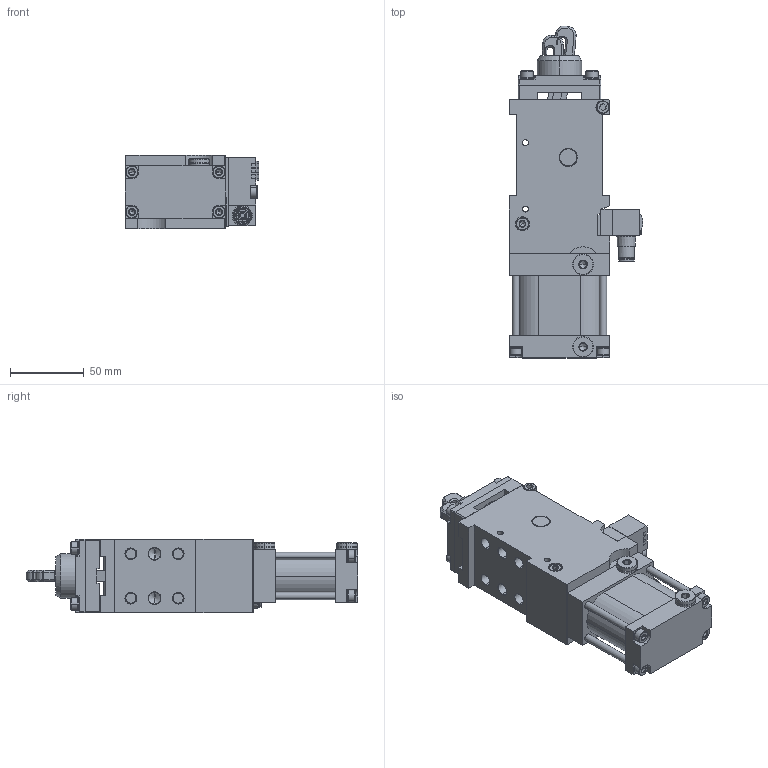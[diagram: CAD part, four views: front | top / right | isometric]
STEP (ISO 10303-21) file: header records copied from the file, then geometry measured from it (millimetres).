
FILE_DESCRIPTION (( 'STEP AP203' ), '1' );
FILE_NAME ('dca40gi-B200514xxx_01.STEP', '2020-05-26T07:52:25', ( '' ), ( '' ), 'SwSTEP 2.0', 'SolidWorks 2019', '' );
FILE_SCHEMA (( 'CONFIG_CONTROL_DESIGN' ));
Products named in the file (1): dca40gi-B200514xxx_01
Bounding box: 90.46 x 224.75 x 50.02 mm (x, y, z)
Volume: 397243.4 mm3; surface area: 143083.5 mm2
Topology: 37 solids, 37 shells, 2365 faces, 6046 edges, 3796 vertices
Faces by surface type: plane 1035, cylinder 740, cone 422, torus 166, bspline 2
Entity records: 72989 total; most frequent: CARTESIAN_POINT 15533, DIRECTION 12172, ORIENTED_EDGE 11976, EDGE_CURVE 5988, AXIS2_PLACEMENT_3D 4641, VERTEX_POINT 3796, LINE 2890, VECTOR 2890
